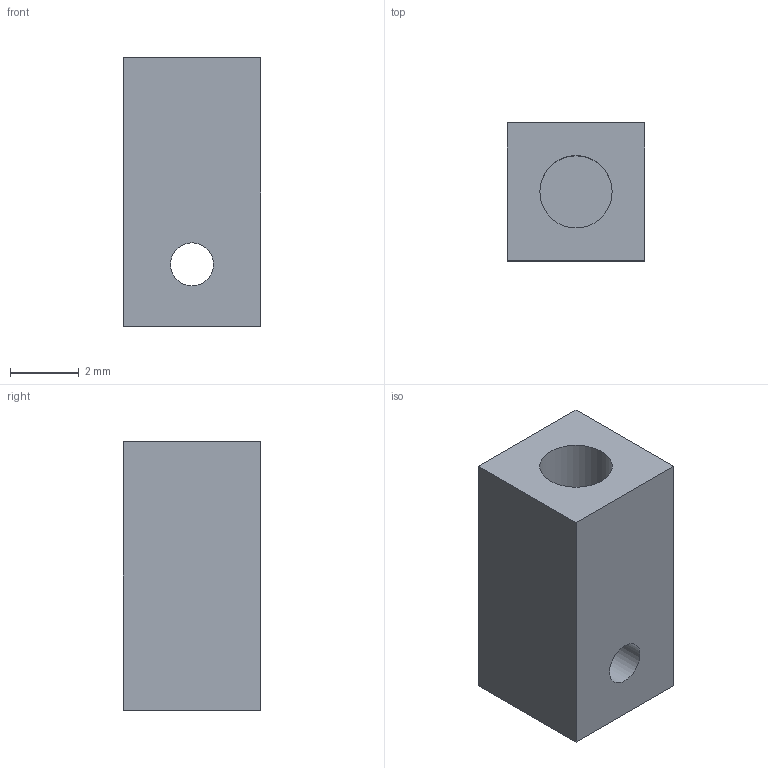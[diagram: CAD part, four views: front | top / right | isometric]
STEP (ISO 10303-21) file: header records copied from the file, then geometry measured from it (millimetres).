
FILE_DESCRIPTION(('SkyG Speed 90B - revision C6B-12 - 2026-10-11','AHR-aileron-horn-right'),'2;1');
FILE_NAME('AHR-aileron-horn-right_C6B-12','2026-10-11T16:48:44',('Author'),( 'Open CASCADE'),'Open CASCADE STEP processor 7.9','Open CASCADE 7.9' ,'Unknown');
FILE_SCHEMA(('AUTOMOTIVE_DESIGN { 1 0 10303 214 1 1 1 1 }'));
Length unit declared in the file: millimetre
Products named in the file (1): AHR-aileron-horn-right C6B-12
Bounding box: 4 x 4 x 7.8 mm (x, y, z)
Volume: 105.7 mm3; surface area: 197.1 mm2
Topology: 1 solids, 1 shells, 9 faces, 18 edges, 12 vertices
Faces by surface type: plane 7, cylinder 2
Full cylindrical faces by diameter (mm): 1.25 x1, 2.1 x1
Entity records: 484 total; most frequent: DIRECTION 78, CARTESIAN_POINT 76, LINE 46, VECTOR 46, ORIENTED_EDGE 36, PCURVE 36, DEFINITIONAL_REPRESENTATION 36, EDGE_CURVE 18
